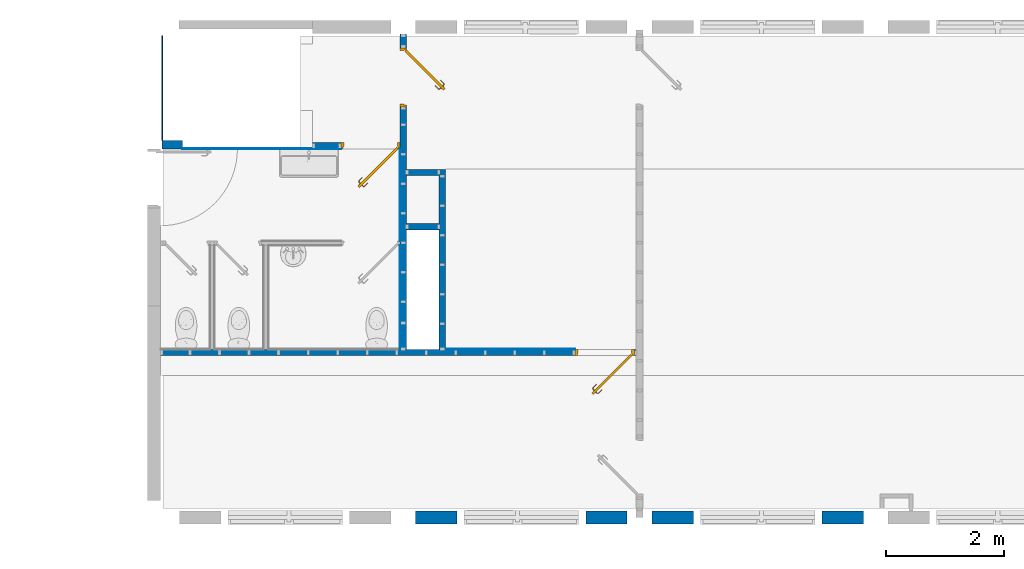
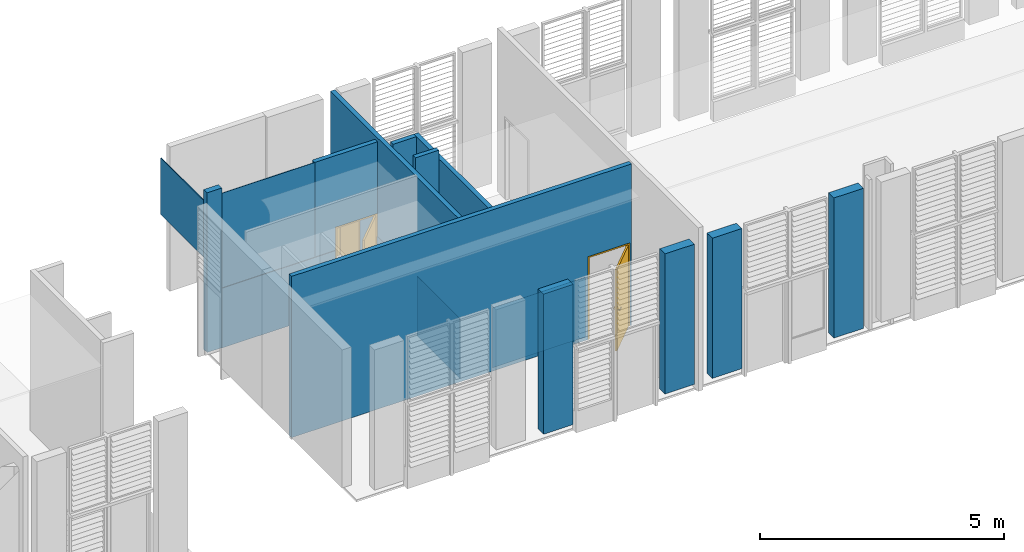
# One storey, part 6 of 8: 17 walls, 3 doors, 6 openings.
"""IFC2X3 building model written with IfcOpenShell, lengths in metres."""

import ifcopenshell
import ifcopenshell.guid

model = None  # the IFC model being written
_history = None  # IfcOwnerHistory: only IFC2X3 demands one
_inside = {}  # id of a spatial element -> (the spatial element, [elements in it])
_under = {}  # id of a project, library or spatial element -> (it, [spatial elements below it])
_declared = {}  # id of a project -> (the project, [libraries it declares])
_typed = {}  # id of a type object -> (the type object, [elements of that type])
_made_of = {}  # id of a material, layer set ... -> (it, [elements and type objects made of it])


def new_model(schema):
    """Start an empty IFC model of exactly this schema.

    Asked for "IFC4X3", IfcOpenShell would pick the latest addendum, in which some entities
    have other attributes; the version numbers below select the first issue.
    IFC2X3 requires an IfcOwnerHistory on every rooted entity: one is made here for all.
    """
    global model, _history
    if schema == "IFC4X3":
        model = ifcopenshell.file(schema_version=(4, 3, 0, 0))
    else:
        model = ifcopenshell.file(schema=schema)
    _inside.clear()
    _under.clear()
    _declared.clear()
    _typed.clear()
    _made_of.clear()
    _history = None
    if model.schema == "IFC2X3":
        org = make("IfcOrganization", Name="unknown")
        user = make(
            "IfcPersonAndOrganization",
            ThePerson=make("IfcPerson", FamilyName="unknown"),
            TheOrganization=org,
        )
        app = make(
            "IfcApplication",
            ApplicationDeveloper=org,
            Version="unknown",
            ApplicationFullName="unknown",
            ApplicationIdentifier="unknown",
        )
        _history = make(
            "IfcOwnerHistory",
            OwningUser=user,
            OwningApplication=app,
            ChangeAction="ADDED",
            CreationDate=0,
        )
    return model


def make(cls, **values):
    """One entity of the class cls with the attributes given. An attribute that is None is left unset."""
    return model.create_entity(
        cls, **{name: value for name, value in values.items() if value is not None}
    )


def entity(cls, *values):
    """Any entity or typed value of the class cls, its attributes in the order of the schema. None: left unset."""
    e = model.create_entity(cls)
    for i, value in enumerate(values):
        if value is not None:
            e[i] = value
    return e


def rooted(cls, **values):
    """An entity with a GlobalId (a new one), such as an element, a storey or a relation."""
    return make(cls, GlobalId=ifcopenshell.guid.new(), OwnerHistory=_history, **values)


def si_unit(unit_type, name, prefix=None):
    """IfcSIUnit, for example si_unit("LENGTHUNIT", "METRE", prefix="MILLI")."""
    return make("IfcSIUnit", UnitType=unit_type, Prefix=prefix, Name=name)


def converted_unit(unit_type, name, factor, base, dimensions=None, offset=None):
    """IfcConversionBasedUnit, such as the inch: factor (a typed value) times the base unit."""
    return make(
        "IfcConversionBasedUnit"
        if offset is None
        else "IfcConversionBasedUnitWithOffset",
        ConversionOffset=offset,
        Dimensions=None
        if dimensions is None
        else entity("IfcDimensionalExponents", *dimensions),
        UnitType=unit_type,
        Name=name,
        ConversionFactor=make(
            "IfcMeasureWithUnit", ValueComponent=factor, UnitComponent=base
        ),
    )


def derived_unit(unit_type, elements):
    """IfcDerivedUnit: a product of units, each with its exponent."""
    return make(
        "IfcDerivedUnit",
        Elements=[
            make("IfcDerivedUnitElement", Unit=unit, Exponent=power)
            for unit, power in elements
        ],
        UnitType=unit_type,
    )


def assignment(units):
    """IfcUnitAssignment: the units of a project."""
    return None if units is None else make("IfcUnitAssignment", Units=units)


def point(xyz):
    """IfcCartesianPoint."""
    return None if xyz is None else make("IfcCartesianPoint", Coordinates=xyz)


def direction(xyz):
    """IfcDirection."""
    return None if xyz is None else make("IfcDirection", DirectionRatios=xyz)


def frame(location, z_axis=None, x_axis=None):
    """IfcAxis2Placement3D, a coordinate frame: its origin and axes. An axis left out is left unset."""
    return make(
        "IfcAxis2Placement3D",
        Location=point(location),
        Axis=direction(z_axis),
        RefDirection=direction(x_axis),
    )


def frame_2d(location, x_axis=None):
    """IfcAxis2Placement2D, a coordinate frame in the plane: its origin and x axis."""
    return make(
        "IfcAxis2Placement2D", Location=point(location), RefDirection=direction(x_axis)
    )


def origin():
    """The frame at (0, 0, 0) with its axes left unset."""
    return frame((0.0, 0.0, 0.0))


def place(relative_to, where):
    """IfcLocalPlacement: puts the frame where relative to a parent placement (None: the world)."""
    return make(
        "IfcLocalPlacement", PlacementRelTo=relative_to, RelativePlacement=where
    )


def context(
    kind, dimensions, precision=None, world=None, true_north=None, identifier=None
):
    """IfcGeometricRepresentationContext, for example the 3D "Model" context."""
    return make(
        "IfcGeometricRepresentationContext",
        ContextIdentifier=identifier,
        ContextType=kind,
        CoordinateSpaceDimension=dimensions,
        Precision=precision,
        WorldCoordinateSystem=world,
        TrueNorth=true_north,
    )


def subcontext(parent, identifier, kind, view, scale=None):
    """IfcGeometricRepresentationSubContext, for example "Body" below "Model"."""
    return make(
        "IfcGeometricRepresentationSubContext",
        ContextIdentifier=identifier,
        ContextType=kind,
        ParentContext=parent,
        TargetScale=scale,
        TargetView=view,
    )


def project(units=None, contexts=None):
    """IfcProject with its units and contexts."""
    return rooted(
        "IfcProject",
        Name="project",
        RepresentationContexts=contexts,
        UnitsInContext=assignment(units),
    )


def spatial(cls, under=None, at=None, **own):
    """A site, building, storey or space (cls), placed at a placement, below another one or the project."""
    s = rooted(cls, ObjectPlacement=at, **own)
    if under is not None:
        _under.setdefault(under.id(), (under, []))[1].append(s)
    return s


def profile(cls, at=None, kind="AREA", **sizes):
    """A parametric profile (cls). Its sizes go by their IFC names, for example OverallWidth=200.0."""
    return make(cls, ProfileType=kind, Position=at, **sizes)


def rectangle(**sizes):
    """IfcRectangleProfileDef."""
    return profile("IfcRectangleProfileDef", **sizes)


def extrude(swept, where, along, depth):
    """IfcExtrudedAreaSolid: the profile swept, set in the frame where, extruded along a direction by depth."""
    return make(
        "IfcExtrudedAreaSolid",
        SweptArea=swept,
        Position=where,
        ExtrudedDirection=direction(along),
        Depth=depth,
    )


def faces_of(points, faces, orient=None, outer=None):
    """IfcFace entities. A face is a list of loops; a loop is a list of indices into points, from 0.

    orient and outer hold one flag for each loop. By default every Orientation is true, the
    first loop of a face is its IfcFaceOuterBound and the others are IfcFaceBound.
    """
    made = []
    for i, loops in enumerate(faces):
        bounds = []
        for j, loop in enumerate(loops):
            is_outer = j == 0 if outer is None else outer[i][j]
            bounds.append(
                make(
                    "IfcFaceOuterBound" if is_outer else "IfcFaceBound",
                    Bound=make("IfcPolyLoop", Polygon=[points[k] for k in loop]),
                    Orientation=True if orient is None else orient[i][j],
                )
            )
        made.append(make("IfcFace", Bounds=bounds))
    return made


def faceted_brep(points, faces, orient=None, outer=None, voids=None):
    """IfcFacetedBrep: a solid bounded by flat faces; with voids (closed shells), ...WithVoids."""
    shared = [point(p) for p in points]
    hull = make("IfcClosedShell", CfsFaces=faces_of(shared, faces, orient, outer))
    if voids is None:
        return make("IfcFacetedBrep", Outer=hull)
    return make(
        "IfcFacetedBrepWithVoids",
        Outer=hull,
        Voids=[
            make(cls, CfsFaces=faces_of(shared, fs, o, b)) for cls, fs, o, b in voids
        ],
    )


def shape(context_of_items, identifier, shape_type, items):
    """IfcShapeRepresentation: the items that make up one representation, for example the "Body"."""
    return make(
        "IfcShapeRepresentation",
        ContextOfItems=context_of_items,
        RepresentationIdentifier=identifier,
        RepresentationType=shape_type,
        Items=items,
    )


def source(mapping_origin, context_of_items, identifier, shape_type, items):
    """IfcRepresentationMap: a shape defined once, which mapped items show again and again."""
    return make(
        "IfcRepresentationMap",
        MappingOrigin=mapping_origin,
        MappedRepresentation=shape(context_of_items, identifier, shape_type, items),
    )


def transform(
    local_origin,
    x_axis=None,
    y_axis=None,
    z_axis=None,
    scale=None,
    scale2=None,
    scale3=None,
    uniform=True,
):
    """IfcCartesianTransformationOperator3D, or its non-uniform kind. x_axis, y_axis, z_axis: its Axis1, 2, 3."""
    if uniform:
        return make(
            "IfcCartesianTransformationOperator3D",
            Axis1=direction(x_axis),
            Axis2=direction(y_axis),
            LocalOrigin=point(local_origin),
            Scale=scale,
            Axis3=direction(z_axis),
        )
    return make(
        "IfcCartesianTransformationOperator3DnonUniform",
        Axis1=direction(x_axis),
        Axis2=direction(y_axis),
        LocalOrigin=point(local_origin),
        Scale=scale,
        Axis3=direction(z_axis),
        Scale2=scale2,
        Scale3=scale3,
    )


def mapped(mapping_source, mapping_target):
    """IfcMappedItem: shows the shape of a source again, moved by a transform."""
    return make(
        "IfcMappedItem", MappingSource=mapping_source, MappingTarget=mapping_target
    )


def material(Name=None, Category=None):
    """IfcMaterial."""
    return make("IfcMaterial", Name=Name, Category=Category)


def layer(
    of_material, thickness, ventilated=None, Name=None, Category=None, Priority=None
):
    """IfcMaterialLayer: one layer of a wall or slab, of a material (None: an air gap)."""
    return make(
        "IfcMaterialLayer",
        Material=of_material,
        LayerThickness=thickness,
        IsVentilated=ventilated,
        Name=Name,
        Category=Category,
        Priority=Priority,
    )


def layer_set(layers, Name=None):
    """IfcMaterialLayerSet."""
    return make("IfcMaterialLayerSet", MaterialLayers=layers, LayerSetName=Name)


def layer_usage(for_layer_set, set_direction, sense, offset, extent=None):
    """IfcMaterialLayerSetUsage: how a layer set lies in its element."""
    return make(
        "IfcMaterialLayerSetUsage",
        ForLayerSet=for_layer_set,
        LayerSetDirection=set_direction,
        DirectionSense=sense,
        OffsetFromReferenceLine=offset,
        ReferenceExtent=extent,
    )


def made_of(thing, what):
    """Note that an element or type object is made of a material, layer set ...; save() writes the relation."""
    if what is not None:
        _made_of.setdefault(what.id(), (what, []))[1].append(thing)
    return thing


def type_object(cls, material=None, **own):
    """A type object (cls), such as IfcWallType, which elements share."""
    return made_of(rooted(cls, **own), material)


def type_shapes(of_type, sources):
    """Give a type object the sources (RepresentationMaps) that its elements show as mapped items."""
    of_type.RepresentationMaps = sources


def element(
    cls,
    number,
    at=None,
    inside=None,
    cuts=None,
    type_object=None,
    material=None,
    context=None,
    identifier="Body",
    shape_type=None,
    held_by="IfcProductDefinitionShape",
    body=None,
    shapes=None,
    **own,
):
    """One element of the class cls, such as IfcWall. Its Tag is "e" and its number.

    at: its placement. inside: the storey or other place that contains it. cuts: it is an
    opening in that element (IfcRelVoidsElement). A single representation is given by context,
    identifier, shape_type and body (its items); several are given by shapes. held_by: the class
    of the entity that holds the representations. save() writes the other relations.
    """
    e = rooted(cls, Tag="e%d" % number, ObjectPlacement=at, **own)
    if body is not None:
        shapes = [shape(context, identifier, shape_type, body)]
    if shapes is not None:
        e.Representation = make(held_by, Representations=shapes)
    if inside is not None:
        _inside.setdefault(inside.id(), (inside, []))[1].append(e)
    if cuts is not None:
        rooted(
            "IfcRelVoidsElement", RelatingBuildingElement=cuts, RelatedOpeningElement=e
        )
    if type_object is not None:
        _typed.setdefault(type_object.id(), (type_object, []))[1].append(e)
    return made_of(e, material)


def fill(opening, filler):
    """IfcRelFillsElement: the door or window that sits in an opening."""
    return rooted(
        "IfcRelFillsElement",
        RelatingOpeningElement=opening,
        RelatedBuildingElement=filler,
    )


def aggregate(whole, parts):
    """IfcRelAggregates: a whole, such as a stair, and the parts it consists of."""
    return rooted("IfcRelAggregates", RelatingObject=whole, RelatedObjects=parts)


def save(model, path):
    """Write the relations noted so far, then the file.

    IfcRelAggregates (storeys below a building ...), IfcRelContainedInSpatialStructure (elements
    in a storey), IfcRelDefinesByType, IfcRelAssociatesMaterial and IfcRelDeclares: one each for
    every whole, place, type object, material and project.
    """
    for whole, parts in _under.values():
        aggregate(whole, parts)
    for where, things in _inside.values():
        rooted(
            "IfcRelContainedInSpatialStructure",
            RelatedElements=things,
            RelatingStructure=where,
        )
    for kind, things in _typed.values():
        rooted("IfcRelDefinesByType", RelatedObjects=things, RelatingType=kind)
    for what, things in _made_of.values():
        rooted("IfcRelAssociatesMaterial", RelatedObjects=things, RelatingMaterial=what)
    for by, libraries in _declared.values():
        rooted("IfcRelDeclares", RelatingContext=by, RelatedDefinitions=libraries)
    model.write(path)


model = new_model("IFC2X3")

# Units and contexts
model_context = context("Model", 3, precision=1e-05, world=origin(), true_north=direction((6.12303176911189e-17, 1.0)))
body_context = subcontext(model_context, "Body", "Model", "MODEL_VIEW")
ifc_project = project(units=[si_unit("LENGTHUNIT", "METRE"), si_unit("AREAUNIT", "SQUARE_METRE"), si_unit("VOLUMEUNIT", "CUBIC_METRE"), converted_unit("PLANEANGLEUNIT", "DEGREE", entity("IfcRatioMeasure", 0.0174532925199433), si_unit("PLANEANGLEUNIT", "RADIAN"), dimensions=[0, 0, 0, 0, 0, 0, 0]), si_unit("MASSUNIT", "GRAM", prefix="KILO"), derived_unit("MASSDENSITYUNIT", [(si_unit("MASSUNIT", "GRAM", prefix="KILO"), 1), (si_unit("LENGTHUNIT", "METRE"), -3)]), si_unit("TIMEUNIT", "SECOND"), si_unit("FREQUENCYUNIT", "HERTZ"), si_unit("THERMODYNAMICTEMPERATUREUNIT", "DEGREE_CELSIUS"), derived_unit("THERMALTRANSMITTANCEUNIT", [(si_unit("MASSUNIT", "GRAM", prefix="KILO"), 1), (si_unit("THERMODYNAMICTEMPERATUREUNIT", "KELVIN"), -1), (si_unit("TIMEUNIT", "SECOND"), -3)]), derived_unit("VOLUMETRICFLOWRATEUNIT", [(si_unit("LENGTHUNIT", "METRE"), 3), (si_unit("TIMEUNIT", "SECOND"), -1)]), si_unit("ELECTRICCURRENTUNIT", "AMPERE"), si_unit("ELECTRICVOLTAGEUNIT", "VOLT"), si_unit("POWERUNIT", "WATT"), si_unit("FORCEUNIT", "NEWTON", prefix="KILO"), si_unit("ILLUMINANCEUNIT", "LUX"), si_unit("LUMINOUSFLUXUNIT", "LUMEN"), si_unit("LUMINOUSINTENSITYUNIT", "CANDELA"), derived_unit("USERDEFINED", [(si_unit("MASSUNIT", "GRAM", prefix="KILO"), -1), (si_unit("LENGTHUNIT", "METRE"), -2), (si_unit("TIMEUNIT", "SECOND"), 3), (si_unit("LUMINOUSFLUXUNIT", "LUMEN"), 1)]), derived_unit("LINEARVELOCITYUNIT", [(si_unit("LENGTHUNIT", "METRE"), 1), (si_unit("TIMEUNIT", "SECOND"), -1)]), si_unit("PRESSUREUNIT", "PASCAL"), derived_unit("USERDEFINED", [(si_unit("LENGTHUNIT", "METRE"), -2), (si_unit("MASSUNIT", "GRAM", prefix="KILO"), 1), (si_unit("TIMEUNIT", "SECOND"), -2)])], contexts=[model_context])

# Site, building, storey
site_placement = place(None, origin())
site = spatial("IfcSite", under=ifc_project, at=site_placement, Name="Surface", CompositionType="ELEMENT")
building_placement = place(site_placement, origin())
building = spatial("IfcBuilding", under=site, at=building_placement, Name="ExPREF", CompositionType="ELEMENT")
storey_placement = place(building_placement, origin())
storey = spatial("IfcBuildingStorey", under=building, at=storey_placement, Name="RDC", CompositionType="ELEMENT", Elevation=-6.89719131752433e-12)

# Wall, openings, door
ifc_material_1 = material(Name="AA-peinture blanc satiné")
ifc_layer_1 = layer(ifc_material_1, 0.0125)
ifc_material_2 = material(Name="AA-isolant plancher")
ifc_layer_2 = layer(ifc_material_2, 0.08)
ifc_layer_3 = layer(ifc_material_1, 0.0125)
ifc_layer_set_1 = layer_set([ifc_layer_1, ifc_layer_2, ifc_layer_3], Name="Mur de base:A-cloison FC 10.5 cm")
ifc_layer_usage_1 = layer_usage(ifc_layer_set_1, "AXIS2", "NEGATIVE", 0.0525)
wall_type_1 = type_object("IfcWallType", Name="Mur de base:A-cloison FC 10.5 cm", PredefinedType="STANDARD", material=ifc_layer_set_1)
wall_1_placement = place(storey_placement, frame((49.4897436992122, -185.17648794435, 0.0), z_axis=(0.0, 0.0, 1.0), x_axis=(0.0, -1.0, 0.0)))
wall_1 = element("IfcWallStandardCase", 1, at=wall_1_placement, inside=storey, type_object=wall_type_1, material=ifc_layer_usage_1, Name="Mur de base:A-cloison FC 10.5 cm", ObjectType="Mur de base:A-cloison FC 10.5 cm", context=body_context, shape_type="SweptSolid", body=[
    extrude(rectangle(XDim=5.33908167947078, YDim=0.104999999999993, at=frame_2d((2.66954083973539, -5.51642065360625e-16), x_axis=(-1.0, 0.0))), origin(), (0.0, 0.0, 1.0), 3.96000000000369),
])
opening_1_placement = place(wall_1_placement, frame((1.94250031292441, -1.05249999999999, 0.0)))
element("IfcOpeningElement", 2, at=opening_1_placement, cuts=wall_1, Name="Mur de base:A-cloison FC 10.5 cm", ObjectType="Opening", context=body_context, shape_type="SweptSolid", body=[
    extrude(rectangle(XDim=2.075, YDim=0.104999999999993, at=frame_2d((0.0, 0.0), x_axis=(0.0, 1.0))), frame((-0.0524999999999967, 0.0, 1.0375), z_axis=(0.0, 1.0, 0.0), x_axis=(-1.0, 0.0, 0.0)), (0.0, 0.0, 1.0), 0.999999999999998),
])
opening_2_placement = place(wall_1_placement, frame((3.57458167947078, -1.05249999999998, 0.0)))
element("IfcOpeningElement", 3, at=opening_2_placement, cuts=wall_1, Name="Mur de base:A-cloison FC 10.5 cm", ObjectType="Opening", context=body_context, shape_type="SweptSolid", body=[
    extrude(rectangle(XDim=2.075, YDim=0.0699999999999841, at=frame_2d((1.73264180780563e-14, 0.0), x_axis=(0.0, 1.0))), frame((-0.0349999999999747, 0.0, 1.0375), z_axis=(0.0, 1.0, 0.0), x_axis=(-1.0, 0.0, 0.0)), (0.0, 0.0, 1.0), 0.999999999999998),
])
opening_3_placement = place(wall_1_placement, frame((0.229999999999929, -0.0525000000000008, 0.0)))
opening_3 = element("IfcOpeningElement", 4, at=opening_3_placement, cuts=wall_1, Name="Porte intérieur bois:PP (0.93m x 2.04m):1", ObjectType="Opening", context=body_context, shape_type="SweptSolid", body=[
    extrude(rectangle(XDim=2.075, YDim=1.0, at=frame_2d((1.0375, 0.5), x_axis=(1.0, 0.0))), frame((0.0, 0.0, 0.0), z_axis=(0.0, 1.0, 0.0), x_axis=(0.0, 0.0, 1.0)), (0.0, 0.0, 1.0), 0.105),
])
ifc_material_3 = material(Name="AA-Blanc satiné")
door_style = type_object("IfcDoorStyle", Name="PP (0.93m x 2.04m)", ConstructionType="NOTDEFINED", OperationType="SINGLE_SWING_LEFT", ParameterTakesPrecedence=False, Sizeable=False, material=ifc_material_3)
shared_shape = source(origin(), body_context, "Body", "Brep", [
    faceted_brep([(0.316565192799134, -0.584795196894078, 1.00778044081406), (0.313754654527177, -0.587605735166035, 1.007), (0.31375465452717, -0.587605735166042, 0.992999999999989), (0.316565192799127, -0.584795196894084, 0.99221955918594), (0.319429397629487, -0.581930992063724, 0.992219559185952), (0.32223993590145, -0.579120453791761, 0.993000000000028), (0.322239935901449, -0.579120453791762, 1.007), (0.319429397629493, -0.581930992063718, 1.00778044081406), (0.306340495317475, -0.563221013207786, 0.993000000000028), (0.306340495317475, -0.563221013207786, 1.007), (0.302365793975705, -0.56486738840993, 1.00778044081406), (0.302365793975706, -0.545331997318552, 1.00778044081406), (0.298315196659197, -0.543654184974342, 1.00778044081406), (0.298315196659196, -0.56654520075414, 1.00778044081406), (0.294340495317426, -0.568191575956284, 1.007), (0.294340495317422, -0.568191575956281, 0.992999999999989), (0.298315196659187, -0.566545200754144, 0.99221955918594), (0.298315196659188, -0.543654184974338, 0.99221955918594), (0.302365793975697, -0.545331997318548, 0.992219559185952), (0.302365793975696, -0.564867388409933, 0.992219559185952), (0.306340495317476, -0.546978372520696, 0.993000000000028), (0.306340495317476, -0.546978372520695, 1.007), (0.294340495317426, -0.542007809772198, 1.007), (0.294340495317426, -0.542007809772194, 0.992999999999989), (0.36471958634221, -0.488599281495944, 0.993000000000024), (0.361909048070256, -0.485788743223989, 0.992219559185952), (0.359044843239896, -0.48292453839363, 0.99221955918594), (0.356234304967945, -0.480114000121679, 0.992999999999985), (0.356234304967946, -0.480114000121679, 1.007), (0.359044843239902, -0.482924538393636, 1.00778044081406), (0.361909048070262, -0.485788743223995, 1.00778044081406), (0.364719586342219, -0.488599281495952, 1.007), (0.335530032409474, -0.517788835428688, 0.993000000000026), (0.335530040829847, -0.517788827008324, 1.007), (0.330705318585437, -0.51412826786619, 1.0078786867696), (0.322575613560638, -0.513772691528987, 1.007), (0.322575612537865, -0.513772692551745, 0.992999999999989), (0.330705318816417, -0.514128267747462, 0.992121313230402)], [[[0, 1, 2, 3, 4, 5, 6, 7]], [[6, 5, 8, 9]], [[9, 10, 7, 6]], [[10, 11, 12, 13, 0, 7]], [[13, 14, 1, 0]], [[2, 1, 14, 15]], [[15, 16, 3, 2]], [[16, 17, 18, 19, 4, 3]], [[19, 8, 5, 4]], [[9, 8, 20, 21]], [[21, 11, 10, 9]], [[12, 22, 14, 13]], [[15, 14, 22, 23]], [[23, 17, 16, 15]], [[18, 20, 8, 19]], [[24, 25, 26, 27, 28, 29, 30, 31]], [[21, 20, 32, 24, 31, 33]], [[33, 30, 34]], [[35, 34, 29]], [[21, 33, 11]], [[33, 31, 30]], [[28, 35, 29]], [[22, 12, 35]], [[35, 12, 34]], [[12, 11, 34]], [[11, 33, 34]], [[29, 34, 30]], [[22, 35, 28, 27, 36, 23]], [[36, 26, 37]], [[27, 26, 36]], [[17, 23, 36]], [[37, 32, 18]], [[20, 18, 32]], [[32, 25, 24]], [[26, 25, 37]], [[25, 32, 37]], [[17, 36, 37]], [[17, 37, 18]]]),
    faceted_brep([(0.351920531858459, -0.620150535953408, 1.00778044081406), (0.354784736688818, -0.617286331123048, 1.00778044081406), (0.357595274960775, -0.614475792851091, 1.00699999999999), (0.357595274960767, -0.614475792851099, 0.993000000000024), (0.354784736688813, -0.617286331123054, 0.992219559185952), (0.351920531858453, -0.620150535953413, 0.99221955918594), (0.349109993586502, -0.622961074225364, 0.992999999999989), (0.349109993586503, -0.622961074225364, 1.007), (0.368662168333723, -0.642513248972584, 1.007), (0.370308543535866, -0.638538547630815, 1.00778044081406), (0.3930050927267, -0.638538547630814, 1.00778044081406), (0.391327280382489, -0.634487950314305, 1.00778044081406), (0.371986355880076, -0.634487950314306, 1.00778044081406), (0.373632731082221, -0.630513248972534, 1.007), (0.373632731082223, -0.630513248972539, 0.993000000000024), (0.371986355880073, -0.634487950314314, 0.992219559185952), (0.391327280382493, -0.634487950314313, 0.992219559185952), (0.393005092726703, -0.638538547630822, 0.99221955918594), (0.370308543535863, -0.638538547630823, 0.99221955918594), (0.368662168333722, -0.642513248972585, 0.992999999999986), (0.394651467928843, -0.642513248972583, 1.007), (0.389680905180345, -0.630513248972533, 1.007), (0.38968090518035, -0.630513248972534, 0.993000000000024), (0.394651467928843, -0.642513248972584, 0.992999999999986), (0.456623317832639, -0.580541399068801, 0.992999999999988), (0.453812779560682, -0.577730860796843, 0.99221955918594), (0.450948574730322, -0.574866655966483, 0.992219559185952), (0.448138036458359, -0.57205611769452, 0.993000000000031), (0.44813803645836, -0.572056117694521, 1.007), (0.450948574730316, -0.574866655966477, 1.00778044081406), (0.453812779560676, -0.577730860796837, 1.00778044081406), (0.456623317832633, -0.580541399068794, 1.00699999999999), (0.422886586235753, -0.614278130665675, 1.007), (0.422570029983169, -0.606109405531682, 1.0078786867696), (0.418909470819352, -0.601284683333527, 1.007), (0.418909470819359, -0.601284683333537, 0.993000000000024), (0.422570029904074, -0.606109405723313, 0.992121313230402), (0.422886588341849, -0.614278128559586, 0.992999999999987)], [[[0, 1, 2, 3, 4, 5, 6, 7]], [[8, 9, 0, 7]], [[9, 10, 11, 12, 1, 0]], [[12, 13, 2, 1]], [[3, 2, 13, 14]], [[14, 15, 4, 3]], [[15, 16, 17, 18, 5, 4]], [[18, 19, 6, 5]], [[7, 6, 19, 8]], [[20, 10, 9, 8]], [[11, 21, 13, 12]], [[14, 13, 21, 22]], [[22, 16, 15, 14]], [[17, 23, 19, 18]], [[8, 19, 23, 20]], [[24, 25, 26, 27, 28, 29, 30, 31]], [[32, 30, 33]], [[31, 30, 32]], [[10, 20, 32]], [[33, 34, 11]], [[21, 11, 34]], [[34, 29, 28]], [[30, 29, 33]], [[29, 34, 33]], [[10, 32, 33]], [[10, 33, 11]], [[22, 21, 34, 28, 27, 35]], [[35, 26, 36]], [[37, 36, 25]], [[22, 35, 16]], [[35, 27, 26]], [[24, 37, 25]], [[23, 17, 37]], [[37, 17, 36]], [[17, 16, 36]], [[16, 35, 36]], [[25, 36, 26]], [[20, 23, 37, 24, 31, 32]]]),
    faceted_brep([(0.328853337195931, -0.579578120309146, 0.866003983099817), (0.335674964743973, -0.572756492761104, 0.870000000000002), (0.335674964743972, -0.572756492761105, 1.08), (0.32885333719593, -0.579578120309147, 1.08399601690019), (0.321532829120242, -0.586898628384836, 1.08535898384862), (0.314212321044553, -0.594219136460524, 1.08399601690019), (0.307390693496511, -0.601040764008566, 1.08), (0.307390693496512, -0.601040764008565, 0.870000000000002), (0.314212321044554, -0.594219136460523, 0.866003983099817), (0.321532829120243, -0.586898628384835, 0.86464101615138), (0.325317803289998, -0.576042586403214, 1.08399601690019), (0.33213943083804, -0.569220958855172, 1.08), (0.332139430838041, -0.569220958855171, 0.870000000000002), (0.325317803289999, -0.576042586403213, 0.866003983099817), (0.31799729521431, -0.583363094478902, 0.86464101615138), (0.310676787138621, -0.59068360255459, 0.866003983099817), (0.303855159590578, -0.597505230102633, 0.870000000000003), (0.303855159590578, -0.597505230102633, 1.08), (0.31067678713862, -0.590683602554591, 1.08399601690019), (0.317997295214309, -0.583363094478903, 1.08535898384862)], [[[0, 1, 2, 3, 4, 5, 6, 7, 8, 9]], [[10, 11, 12, 13, 14, 15, 16, 17, 18, 19]], [[11, 10, 3, 2]], [[3, 10, 19, 4]], [[19, 18, 5, 4]], [[18, 17, 6, 5]], [[7, 6, 17, 16]], [[16, 15, 8, 7]], [[8, 15, 14, 9]], [[14, 13, 0, 9]], [[13, 12, 1, 0]], [[2, 1, 12, 11]]]),
    faceted_brep([(0.360673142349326, -0.61139792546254, 0.866003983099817), (0.367494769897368, -0.604576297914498, 0.870000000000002), (0.367494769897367, -0.604576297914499, 1.08), (0.360673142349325, -0.611397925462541, 1.08399601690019), (0.353352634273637, -0.61871843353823, 1.08535898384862), (0.346032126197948, -0.626038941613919, 1.08399601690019), (0.339210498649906, -0.632860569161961, 1.08), (0.339210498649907, -0.63286056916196, 0.870000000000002), (0.346032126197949, -0.626038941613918, 0.866003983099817), (0.353352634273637, -0.618718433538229, 0.86464101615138), (0.357137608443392, -0.607862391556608, 1.08399601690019), (0.363959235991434, -0.601040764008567, 1.08), (0.363959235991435, -0.601040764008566, 0.870000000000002), (0.357137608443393, -0.607862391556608, 0.866003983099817), (0.349817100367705, -0.615182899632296, 0.86464101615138), (0.342496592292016, -0.622503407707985, 0.866003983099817), (0.335674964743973, -0.629325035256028, 0.870000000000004), (0.335674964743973, -0.629325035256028, 1.08), (0.342496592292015, -0.622503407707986, 1.08399601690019), (0.349817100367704, -0.615182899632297, 1.08535898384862)], [[[0, 1, 2, 3, 4, 5, 6, 7, 8, 9]], [[10, 11, 12, 13, 14, 15, 16, 17, 18, 19]], [[16, 15, 8, 7]], [[8, 15, 14, 9]], [[14, 13, 0, 9]], [[13, 12, 1, 0]], [[2, 1, 12, 11]], [[11, 10, 3, 2]], [[3, 10, 19, 4]], [[19, 18, 5, 4]], [[18, 17, 6, 5]], [[7, 6, 17, 16]]]),
    faceted_brep([(0.279106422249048, -0.629325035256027, 2.04), (0.936715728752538, 0.0282842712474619, 2.04), (0.936715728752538, 0.0282842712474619, 0.0), (0.279106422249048, -0.629325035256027, 0.0), (0.30739069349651, -0.657609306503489, 2.04), (0.30739069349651, -0.657609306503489, 0.0), (0.965, 0.0, 0.0), (0.965, 0.0, 2.04)], [[[0, 1, 2, 3]], [[4, 5, 6, 7]], [[1, 0, 4, 7]], [[2, 1, 7, 6]], [[3, 2, 6, 5]], [[0, 3, 5, 4]]]),
    faceted_brep([(0.0, 0.0, 0.0), (0.0, 0.105000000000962, 0.0), (0.0499999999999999, 0.105000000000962, 0.0), (0.0499999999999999, 0.0400000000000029, 0.0), (0.0349999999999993, 0.0400000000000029, 0.0), (0.0349999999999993, 0.0, 0.0), (0.0, 0.0, 2.07500000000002), (0.0, 0.105000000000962, 2.07500000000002), (1.0, 0.105000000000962, 2.07500000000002), (1.0, 0.105000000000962, 0.0), (0.95, 0.105000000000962, 0.0), (0.95, 0.105000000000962, 2.025), (0.0500000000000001, 0.105000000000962, 2.025), (0.05, 0.0400000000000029, 2.025), (0.95, 0.0400000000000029, 2.025), (0.95, 0.0400000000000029, 0.0), (0.965, 0.0400000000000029, 0.0), (0.965, 0.0400000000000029, 2.04), (0.0349999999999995, 0.0400000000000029, 2.04), (0.0349999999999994, 0.0, 2.04), (0.965, 0.0, 2.04), (0.965, 0.0, 0.0), (1.0, 0.0, 0.0), (1.0, 0.0, 2.07500000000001)], [[[0, 1, 2, 3, 4, 5]], [[1, 0, 6, 7]], [[2, 1, 7, 8, 9, 10, 11, 12]], [[3, 2, 12, 13]], [[4, 3, 13, 14, 15, 16, 17, 18]], [[5, 4, 18, 19]], [[0, 5, 19, 20, 21, 22, 23, 6]], [[8, 23, 22, 9]], [[22, 21, 16, 15, 10, 9]], [[14, 11, 10, 15]], [[20, 17, 16, 21]], [[7, 6, 23, 8]], [[13, 12, 11, 14]], [[19, 18, 17, 20]]]),
])
type_shapes(door_style, [shared_shape])
door_1_placement = place(opening_3_placement, frame((1.0, 0.104999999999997, 0.0), z_axis=(0.0, 0.0, 1.0), x_axis=(-1.0, 0.0, 0.0)))
door_1 = element("IfcDoor", 5, at=door_1_placement, inside=storey, type_object=door_style, material=ifc_material_3, Name="Porte intérieur bois:PP (0.93m x 2.04m)", ObjectType="PP (0.93m x 2.04m)", OverallHeight=2.075, OverallWidth=1.00000000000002, context=body_context, shape_type="MappedRepresentation", body=[
    mapped(shared_shape, transform((0.0, 0.0, 0.0), scale=1.0)),
])
fill(opening_3, door_1)

# Wall, opening, door
ifc_layer_usage_2 = layer_usage(ifc_layer_set_1, "AXIS2", "NEGATIVE", 0.0525)
wall_2_placement = place(storey_placement, frame((47.949743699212, -187.066488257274, 0.0)))
wall_2 = element("IfcWallStandardCase", 6, at=wall_2_placement, inside=storey, type_object=wall_type_1, material=ifc_layer_usage_2, Name="Mur de base:A-cloison FC 10.5 cm", ObjectType="Mur de base:A-cloison FC 10.5 cm", context=body_context, shape_type="SweptSolid", body=[
    extrude(rectangle(XDim=1.48750000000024, YDim=0.104999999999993, at=frame_2d((0.743750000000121, 0.0), x_axis=(-1.0, 0.0))), origin(), (0.0, 0.0, 1.0), 3.87000000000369),
])
opening_4_placement = place(wall_2_placement, frame((1.48750000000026, 0.0525, 0.0)))
opening_4 = element("IfcOpeningElement", 7, at=opening_4_placement, cuts=wall_2, Name="Porte intérieur bois:PP (0.93m x 2.04m):1", ObjectType="Opening", context=body_context, shape_type="SweptSolid", body=[
    extrude(rectangle(XDim=2.075, YDim=1.0, at=frame_2d((1.0375, 0.5), x_axis=(1.0, 0.0))), frame((0.0, 0.0, 0.0), z_axis=(0.0, -1.0, 0.0), x_axis=(0.0, 0.0, 1.0)), (0.0, 0.0, 1.0), 0.105),
])
door_2_placement = place(opening_4_placement, frame((-1.0, -0.10499999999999, 0.0)))
door_2 = element("IfcDoor", 8, at=door_2_placement, inside=storey, type_object=door_style, material=ifc_material_3, Name="Porte intérieur bois:PP (0.93m x 2.04m)", ObjectType="PP (0.93m x 2.04m)", OverallHeight=2.075, OverallWidth=0.999999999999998, context=body_context, shape_type="MappedRepresentation", body=[
    mapped(shared_shape, transform((0.0, 0.0, 0.0), scale=1.0)),
])
fill(opening_4, door_2)

# Walls
ifc_layer_usage_3 = layer_usage(ifc_layer_set_1, "AXIS2", "NEGATIVE", 0.0525)
wall_3_placement = place(storey_placement, frame((49.5422436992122, -187.516069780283, 0.0)))
element("IfcWallStandardCase", 9, at=wall_3_placement, inside=storey, type_object=wall_type_1, material=ifc_layer_usage_3, Name="Mur de base:A-cloison FC 10.5 cm", ObjectType="Mur de base:A-cloison FC 10.5 cm", context=body_context, shape_type="SweptSolid", body=[
    extrude(rectangle(XDim=0.555000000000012, YDim=0.104999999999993, at=frame_2d((0.277500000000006, 0.0), x_axis=(-1.0, 0.0))), origin(), (0.0, 0.0, 1.0), 4.0400000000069),
])
ifc_layer_usage_4 = layer_usage(ifc_layer_set_1, "AXIS2", "NEGATIVE", 0.0525)
wall_4_placement = place(storey_placement, frame((50.1497436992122, -187.463569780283, 0.0), z_axis=(0.0, 0.0, 1.0), x_axis=(0.0, -1.0, 0.0)))
element("IfcWallStandardCase", 10, at=wall_4_placement, inside=storey, type_object=wall_type_1, material=ifc_layer_usage_4, Name="Mur de base:A-cloison FC 10.5 cm", ObjectType="Mur de base:A-cloison FC 10.5 cm", context=body_context, shape_type="SweptSolid", body=[
    extrude(rectangle(XDim=3.05199984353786, YDim=0.104999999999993, at=frame_2d((1.52599992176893, 0.0), x_axis=(-1.0, 0.0))), origin(), (0.0, 0.0, 1.0), 4.0400000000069),
])
ifc_layer_usage_5 = layer_usage(ifc_layer_set_1, "AXIS2", "NEGATIVE", 0.0525)
wall_5_placement = place(storey_placement, frame((50.0972436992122, -188.438069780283, -0.274999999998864), z_axis=(0.0, 0.0, 1.0), x_axis=(-1.0, 0.0, 0.0)))
element("IfcWallStandardCase", 11, at=wall_5_placement, inside=storey, type_object=wall_type_1, material=ifc_layer_usage_5, Name="Mur de base:A-cloison FC 10.5 cm", ObjectType="Mur de base:A-cloison FC 10.5 cm", context=body_context, shape_type="SweptSolid", body=[
    extrude(rectangle(XDim=0.555000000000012, YDim=0.104999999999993, at=frame_2d((0.277500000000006, 0.0), x_axis=(-1.0, 0.0))), origin(), (0.0, 0.0, 1.0), 4.53500000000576),
])

# Wall, opening, door
ifc_layer_usage_6 = layer_usage(ifc_layer_set_1, "AXIS2", "NEGATIVE", 0.0525)
wall_6_placement = place(storey_placement, frame((45.379743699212, -190.56806962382, 0.0)))
wall_6 = element("IfcWallStandardCase", 12, at=wall_6_placement, inside=storey, type_object=wall_type_1, material=ifc_layer_usage_6, Name="Mur de base:A-cloison FC 10.5 cm", ObjectType="Mur de base:A-cloison FC 10.5 cm", context=body_context, shape_type="SweptSolid", body=[
    extrude(rectangle(XDim=8.05200000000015, YDim=0.104999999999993, at=frame_2d((4.02600000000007, 0.0), x_axis=(-1.0, 0.0))), origin(), (0.0, 0.0, 1.0), 4.04000000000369),
])
opening_5_placement = place(wall_6_placement, frame((8.02000000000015, 0.0525, 0.0)))
opening_5 = element("IfcOpeningElement", 13, at=opening_5_placement, cuts=wall_6, Name="Porte intérieur bois:PP (0.93m x 2.04m):1", ObjectType="Opening", context=body_context, shape_type="SweptSolid", body=[
    extrude(rectangle(XDim=2.075, YDim=0.999999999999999, at=frame_2d((1.0375, 0.5), x_axis=(1.0, 0.0))), frame((0.0, 0.0, 0.0), z_axis=(0.0, -1.0, 0.0), x_axis=(0.0, 0.0, 1.0)), (0.0, 0.0, 1.0), 0.105),
])
door_3_placement = place(opening_5_placement, frame((-1.0, -0.10499999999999, 0.0)))
door_3 = element("IfcDoor", 14, at=door_3_placement, inside=storey, type_object=door_style, material=ifc_material_3, Name="Porte intérieur bois:PP (0.93m x 2.04m)", ObjectType="PP (0.93m x 2.04m)", OverallHeight=2.075, OverallWidth=0.999999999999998, context=body_context, shape_type="MappedRepresentation", body=[
    mapped(shared_shape, transform((0.0, 0.0, 0.0), scale=1.0)),
])
fill(opening_5, door_3)

# Walls
ifc_material_4 = material(Name="AA-BTC")
ifc_layer_4 = layer(ifc_material_4, 0.22)
ifc_layer_set_2 = layer_set([ifc_layer_4], Name="Mur de base:A-prémur BTC")
ifc_layer_usage_7 = layer_usage(ifc_layer_set_2, "AXIS2", "POSITIVE", -0.11)
wall_type_2 = type_object("IfcWallType", Name="Mur de base:A-prémur BTC", PredefinedType="STANDARD", material=ifc_layer_set_2)
wall_7_placement = place(storey_placement, frame((57.2797436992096, -193.359651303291, 0.300000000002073), z_axis=(0.0, 0.0, 1.0), x_axis=(-1.0, 0.0, 0.0)))
element("IfcWallStandardCase", 15, at=wall_7_placement, inside=storey, type_object=wall_type_2, material=ifc_layer_usage_7, Name="Mur de base:A-prémur BTC", ObjectType="Mur de base:A-prémur BTC", context=body_context, shape_type="SweptSolid", body=[
    extrude(rectangle(XDim=0.699999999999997, YDim=0.220000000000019, at=frame_2d((0.349999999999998, 0.0), x_axis=(-1.0, 0.0))), origin(), (0.0, 0.0, 1.0), 3.51000000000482),
])
ifc_layer_usage_8 = layer_usage(ifc_layer_set_2, "AXIS2", "POSITIVE", -0.11)
wall_8_placement = place(storey_placement, frame((53.2797436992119, -193.359651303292, 0.300000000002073), z_axis=(0.0, 0.0, 1.0), x_axis=(-1.0, 0.0, 0.0)))
element("IfcWallStandardCase", 16, at=wall_8_placement, inside=storey, type_object=wall_type_2, material=ifc_layer_usage_8, Name="Mur de base:A-prémur BTC", ObjectType="Mur de base:A-prémur BTC", context=body_context, shape_type="SweptSolid", body=[
    extrude(rectangle(XDim=0.699999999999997, YDim=0.220000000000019, at=frame_2d((0.349999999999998, 4.37150315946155e-15), x_axis=(-1.0, 0.0))), origin(), (0.0, 0.0, 1.0), 3.51000000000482),
])
ifc_layer_usage_9 = layer_usage(ifc_layer_set_2, "AXIS2", "NEGATIVE", 0.11)
wall_9_placement = place(storey_placement, frame((53.6997436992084, -193.359651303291, 0.300000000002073)))
element("IfcWallStandardCase", 17, at=wall_9_placement, inside=storey, type_object=wall_type_2, material=ifc_layer_usage_9, Name="Mur de base:A-prémur BTC", ObjectType="Mur de base:A-prémur BTC", context=body_context, shape_type="SweptSolid", body=[
    extrude(rectangle(XDim=0.699999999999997, YDim=0.220000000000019, at=frame_2d((0.349999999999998, 0.0), x_axis=(-1.0, 0.0))), origin(), (0.0, 0.0, 1.0), 3.51000000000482),
])
ifc_layer_usage_10 = layer_usage(ifc_layer_set_2, "AXIS2", "NEGATIVE", 0.11)
wall_10_placement = place(storey_placement, frame((49.6997436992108, -193.359651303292, 0.300000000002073)))
element("IfcWallStandardCase", 18, at=wall_10_placement, inside=storey, type_object=wall_type_2, material=ifc_layer_usage_10, Name="Mur de base:A-prémur BTC", ObjectType="Mur de base:A-prémur BTC", context=body_context, shape_type="SweptSolid", body=[
    extrude(rectangle(XDim=0.699999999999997, YDim=0.220000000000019, at=frame_2d((0.349999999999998, 4.37150315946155e-15), x_axis=(-1.0, 0.0))), origin(), (0.0, 0.0, 1.0), 3.51000000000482),
])
ifc_layer_5 = layer(ifc_material_4, 0.14)
ifc_layer_set_3 = layer_set([ifc_layer_5], Name="Mur de base:A-mur BTC 14 cm")
ifc_layer_usage_11 = layer_usage(ifc_layer_set_3, "AXIS2", "NEGATIVE", 0.07)
wall_type_3 = type_object("IfcWallType", Name="Mur de base:A-mur BTC 14 cm", PredefinedType="STANDARD", material=ifc_layer_set_3)
wall_11_placement = place(storey_placement, frame((45.749743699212, -187.046488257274, 0.0), z_axis=(0.0, 0.0, 1.0), x_axis=(-1.0, 0.0, 0.0)))
element("IfcWallStandardCase", 19, at=wall_11_placement, inside=storey, type_object=wall_type_3, material=ifc_layer_usage_11, Name="Mur de base:A-mur BTC 14 cm", ObjectType="Mur de base:A-mur BTC 14 cm", context=body_context, shape_type="SweptSolid", body=[
    extrude(rectangle(XDim=0.350000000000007, YDim=0.139999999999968, at=frame_2d((0.175000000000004, 0.0), x_axis=(-1.0, 0.0))), origin(), (0.0, 0.0, 1.0), 4.0000000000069),
])
ifc_material_5 = material(Name="AA-bambou")
ifc_layer_6 = layer(ifc_material_5, 0.02)
ifc_layer_set_4 = layer_set([ifc_layer_6], Name="Mur de base:bambou tressé")
ifc_layer_usage_12 = layer_usage(ifc_layer_set_4, "AXIS2", "NEGATIVE", 0.01)
wall_type_4 = type_object("IfcWallType", Name="Mur de base:bambou tressé", PredefinedType="STANDARD", material=ifc_layer_set_4)
wall_12_placement = place(storey_placement, frame((45.409743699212, -185.206487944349, 2.29966035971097), z_axis=(0.0, 0.0, 1.0), x_axis=(0.0, -1.0, 0.0)))
element("IfcWallStandardCase", 20, at=wall_12_placement, inside=storey, type_object=wall_type_4, material=ifc_layer_usage_12, Name="Mur de base:bambou tressé", ObjectType="Mur de base:bambou tressé", context=body_context, shape_type="SweptSolid", body=[
    extrude(rectangle(XDim=1.77000031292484, YDim=0.0199999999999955, at=frame_2d((0.885000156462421, 0.0), x_axis=(-1.0, 0.0))), origin(), (0.0, 0.0, 1.0), 1.42033964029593),
])
ifc_material_6 = material(Name="AA-fermacell peint")
ifc_layer_7 = layer(ifc_material_6, 0.0125)
ifc_layer_set_5 = layer_set([ifc_layer_7], Name="Mur de base:A-plaque FC")
ifc_layer_usage_13 = layer_usage(ifc_layer_set_5, "AXIS2", "NEGATIVE", 0.00625)
wall_type_5 = type_object("IfcWallType", Name="Mur de base:A-plaque FC", PredefinedType="STANDARD", material=ifc_layer_set_5)
wall_13_placement = place(storey_placement, frame((45.749743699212, -187.112738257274, 0.0)))
element("IfcWallStandardCase", 21, at=wall_13_placement, inside=storey, type_object=wall_type_5, material=ifc_layer_usage_13, Name="Mur de base:A-plaque FC", ObjectType="Mur de base:A-plaque FC", context=body_context, shape_type="SweptSolid", body=[
    extrude(rectangle(XDim=2.19999999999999, YDim=0.0125000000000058, at=frame_2d((1.1, 0.0), x_axis=(-1.0, 0.0))), origin(), (0.0, 0.0, 1.0), 3.8700000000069),
])
ifc_material_7 = material(Name="AA-sol carrelage")
ifc_layer_8 = layer(ifc_material_7, 0.01)
ifc_layer_set_6 = layer_set([ifc_layer_8], Name="Mur de base:A-carrelage")
ifc_layer_usage_14 = layer_usage(ifc_layer_set_6, "AXIS2", "NEGATIVE", 0.005)
wall_type_6 = type_object("IfcWallType", Name="Mur de base:A-carrelage", PredefinedType="STANDARD", material=ifc_layer_set_6)
wall_14_placement = place(storey_placement, frame((45.749743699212, -187.123988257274, 0.0)))
element("IfcWallStandardCase", 22, at=wall_14_placement, inside=storey, type_object=wall_type_6, material=ifc_layer_usage_14, Name="Mur de base:A-carrelage", ObjectType="Mur de base:A-carrelage", context=body_context, shape_type="SweptSolid", body=[
    extrude(rectangle(XDim=2.68750000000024, YDim=0.0100000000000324, at=frame_2d((1.34375000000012, 0.0), x_axis=(-1.0, 0.0))), origin(), (0.0, 0.0, 1.0), 1.5),
])
ifc_layer_usage_15 = layer_usage(ifc_layer_set_6, "AXIS2", "NEGATIVE", 0.005)
wall_15_placement = place(storey_placement, frame((49.4323277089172, -187.118988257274, 0.0), z_axis=(0.0, 0.0, 1.0), x_axis=(0.0, -1.0, 0.0)))
element("IfcWallStandardCase", 23, at=wall_15_placement, inside=storey, type_object=wall_type_6, material=ifc_layer_usage_15, Name="Mur de base:A-carrelage", ObjectType="Mur de base:A-carrelage", context=body_context, shape_type="SweptSolid", body=[
    extrude(rectangle(XDim=1.56208136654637, YDim=0.00999999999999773, at=frame_2d((0.781040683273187, 0.0), x_axis=(-1.0, 0.0))), origin(), (0.0, 0.0, 1.0), 1.5),
])

# Wall, opening
ifc_layer_usage_16 = layer_usage(ifc_layer_set_6, "AXIS2", "NEGATIVE", 0.005)
wall_16_placement = place(storey_placement, frame((49.4322436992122, -188.75106962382, 0.0), z_axis=(0.0, 0.0, 1.0), x_axis=(0.0, -1.0, 0.0)))
wall_16 = element("IfcWallStandardCase", 24, at=wall_16_placement, inside=storey, type_object=wall_type_6, material=ifc_layer_usage_16, Name="Mur de base:A-carrelage", ObjectType="Mur de base:A-carrelage", context=body_context, shape_type="SweptSolid", body=[
    extrude(rectangle(XDim=1.76449999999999, YDim=0.00999999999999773, at=frame_2d((0.882249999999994, 0.0), x_axis=(-1.0, 0.0))), origin(), (0.0, 0.0, 1.0), 1.5),
])
opening_6_placement = place(wall_16_placement, frame((0.0, -0.995000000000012, 0.0)))
element("IfcOpeningElement", 25, at=opening_6_placement, cuts=wall_16, Name="Mur de base:A-carrelage", ObjectType="Opening", context=body_context, shape_type="SweptSolid", body=[
    extrude(rectangle(XDim=2.075, YDim=0.0699999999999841, at=frame_2d((1.73264180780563e-14, 0.0), x_axis=(0.0, 1.0))), frame((-0.0349999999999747, 0.0, 1.0375), z_axis=(0.0, 1.0, 0.0), x_axis=(-1.0, 0.0, 0.0)), (0.0, 0.0, 1.0), 0.999999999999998),
])

# Wall
ifc_layer_usage_17 = layer_usage(ifc_layer_set_6, "AXIS2", "NEGATIVE", 0.005)
wall_17_placement = place(storey_placement, frame((52.3997436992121, -190.51056962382, 0.0), z_axis=(0.0, 0.0, 1.0), x_axis=(-1.0, 0.0, 0.0)))
element("IfcWallStandardCase", 26, at=wall_17_placement, inside=storey, type_object=wall_type_6, material=ifc_layer_usage_17, Name="Mur de base:A-carrelage", ObjectType="Mur de base:A-carrelage", context=body_context, shape_type="SweptSolid", body=[
    extrude(rectangle(XDim=2.19749999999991, YDim=0.0100000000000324, at=frame_2d((1.09874999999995, 0.0), x_axis=(-1.0, 0.0))), origin(), (0.0, 0.0, 1.0), 1.5),
])

save(model, "model.ifc")
